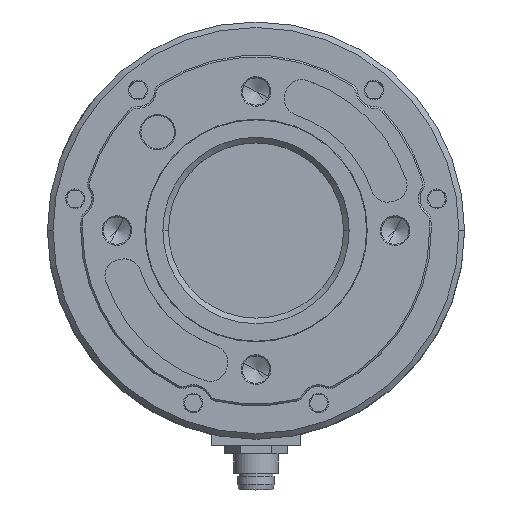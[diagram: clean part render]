
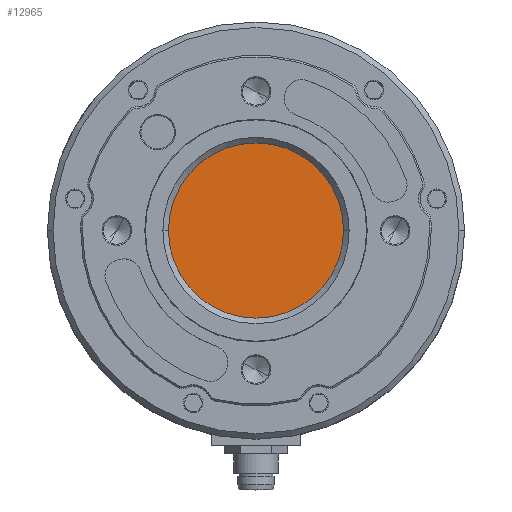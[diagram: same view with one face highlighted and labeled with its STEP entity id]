
A CAD part, top view. The second image highlights one B-rep face of the part: STEP entity #12965.
In plain terms, the highlighted planar face has unit normal (0, 0, 1).
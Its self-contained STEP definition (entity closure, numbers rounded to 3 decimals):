
#12942=CARTESIAN_POINT('Axis2P3D Location',(0.,0.,18.5)) ;
#12947=CARTESIAN_POINT('Axis2P3D Location',(0.,0.,18.5)) ;
#12951=CARTESIAN_POINT('Vertex',(15.75,0.,18.5)) ;
#12953=CARTESIAN_POINT('Vertex',(-15.75,0.,18.5)) ;
#12956=CARTESIAN_POINT('Axis2P3D Location',(0.,0.,18.5)) ;
#12943=DIRECTION('Axis2P3D Direction',(0.,0.,1.)) ;
#12944=DIRECTION('Axis2P3D XDirection',(1.,0.,0.)) ;
#12948=DIRECTION('Axis2P3D Direction',(0.,0.,1.)) ;
#12957=DIRECTION('Axis2P3D Direction',(0.,0.,1.)) ;
#12945=AXIS2_PLACEMENT_3D('Plane Axis2P3D',#12942,#12943,#12944) ;
#12949=AXIS2_PLACEMENT_3D('Circle Axis2P3D',#12947,#12948,$) ;
#12958=AXIS2_PLACEMENT_3D('Circle Axis2P3D',#12956,#12957,$) ;
#12962=ORIENTED_EDGE('',*,*,#12955,.T.) ;
#12963=ORIENTED_EDGE('',*,*,#12960,.T.) ;
#12965=ADVANCED_FACE('\X2\96F64EF651E04F554F53\X0\',(#12964),#12946,.T.) ;
#12950=CIRCLE('generated circle',#12949,15.75) ;
#12959=CIRCLE('generated circle',#12958,15.75) ;
#12955=EDGE_CURVE('',#12952,#12954,#12950,.T.) ;
#12960=EDGE_CURVE('',#12954,#12952,#12959,.T.) ;
#12961=EDGE_LOOP('',(#12962,#12963)) ;
#12964=FACE_OUTER_BOUND('',#12961,.T.) ;
#12946=PLANE('',#12945) ;
#12952=VERTEX_POINT('',#12951) ;
#12954=VERTEX_POINT('',#12953) ;
